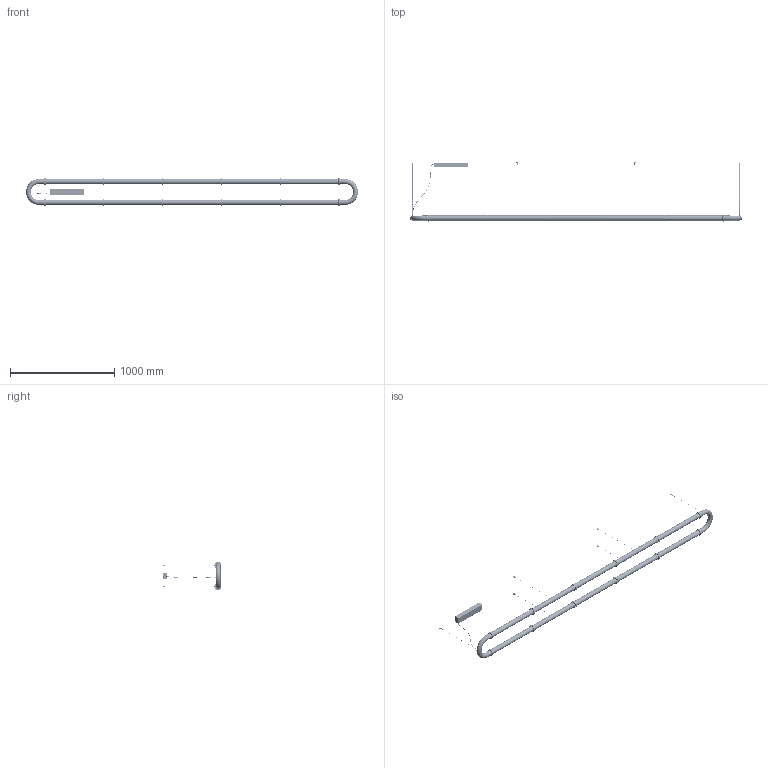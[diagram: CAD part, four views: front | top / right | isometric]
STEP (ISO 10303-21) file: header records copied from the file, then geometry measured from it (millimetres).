
FILE_DESCRIPTION (( 'STEP AP203' ), '1' );
FILE_NAME ('FBN05.LS09.AF01.R00 - Render.STEP', '2026-04-02T09:56:57', ( '' ), ( '' ), 'SwSTEP 2.0', 'SolidWorks 2025', '' );
FILE_SCHEMA (( 'CONFIG_CONTROL_DESIGN' ));
Length unit declared in the file: millimetre
Products named in the file (23): FBN05.LS09.C001.R00; FBN05.LS09.C003.R00; FBN05.LS03.C010.R1A; Morsetto Automatico M8x1 Fune Acciaio - Beretta 1010-0802; FBN05.LS03.C098.R00; FBN05.LS03.C012.R10; FBN05.LS09.AF01.R00 - Render; FBN05.LS01.C003.R00; FBN05.LS04.C008.R1A; socket countersunk head screw_1_iso_ISO 10642 - M3 x 6 - 6C; FBN05.LS09.C002.R00; FBN05.LS03.C015.R1A; FBN05.LS03.C007.R1A; FBN05.LS09.C090.R00; FBN05.LS03.C009.R1A; FBN05.LS03.C006.R1A; FBN05.LS03.C014.R1A; F44 M01; Grani Steab_GRANO M4X0.7 L.4 NERO CAVA ESAGONALE; Rosone Cilindrico Ø16 Ø10x18 - Beretta 2031.0802; FBN05.LS03.C016.R10; FBN05.LS08.C002.R00; FBN05.LS04.C024.R1A
Assembly tree (302 placements, depth 2):
  FBN05.LS09.AF01.R00 - Render
    Grani Steab_GRANO M4X0.7 L.4 NERO CAVA ESAGONALE
    Rosone Cilindrico Ø16 Ø10x18 - Beretta 2031.0802  x6
    Morsetto Automatico M8x1 Fune Acciaio - Beretta 1010-0802  x6
    socket countersunk head screw_1_iso_ISO 10642 - M3 x 6 - 6C  x8
    FBN05.LS03.C015.R1A  x6
    FBN05.LS04.C024.R1A  x4
    FBN05.LS03.C010.R1A  x12
    FBN05.LS04.C008.R1A  x4
    FBN05.LS03.C014.R1A  x96
    FBN05.LS03.C016.R10  x96
    FBN05.LS03.C007.R1A  x12
    FBN05.LS09.C002.R00
    FBN05.LS09.C090.R00
    FBN05.LS09.C001.R00  x2
    FBN05.LS03.C006.R1A  x12
    FBN05.LS01.C003.R00
    FBN05.LS03.C098.R00  x6
    FBN05.LS03.C012.R10  x6
    F44 M01
    FBN05.LS09.C003.R00
    FBN05.LS03.C009.R1A  x16
    FBN05.LS08.C002.R00  x4
Bounding box: 3182 x 565.24 x 266.46 mm (x, y, z)
Volume: 5634843.7 mm3; surface area: 2878853.5 mm2
Topology: 302 solids, 302 shells, 6411 faces, 14852 edges, 9320 vertices
Faces by surface type: cylinder 3006, plane 1701, cone 878, sphere 780, torus 44, bspline 2
Entity records: 29510 total; most frequent: CARTESIAN_POINT 5009, DIRECTION 3603, ORIENTED_EDGE 2580, AXIS2_PLACEMENT_3D 1533, EDGE_CURVE 1290, VERTEX_POINT 813, EDGE_LOOP 725, LOCAL_TIME 719
